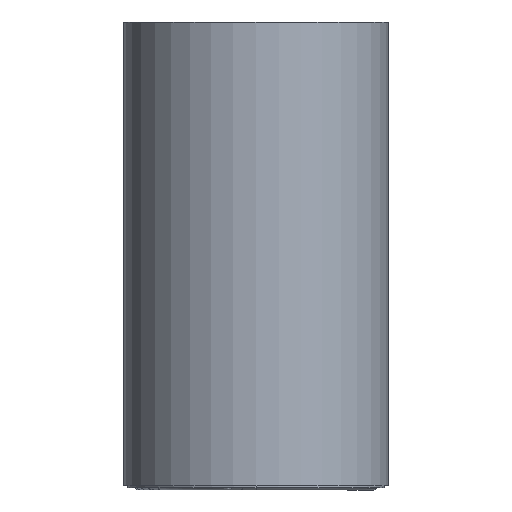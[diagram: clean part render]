
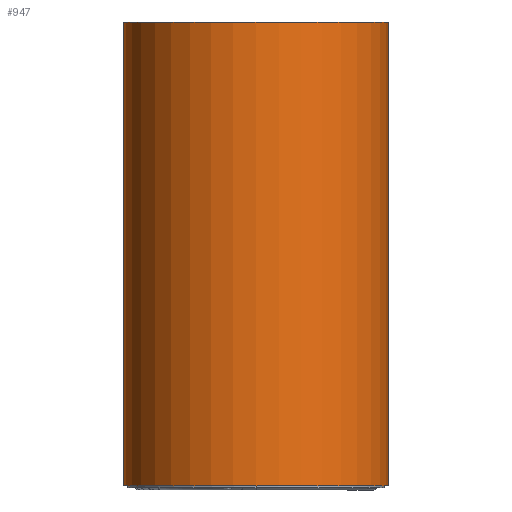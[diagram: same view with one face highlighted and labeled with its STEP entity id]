
A CAD part, front view. The second image highlights one B-rep face of the part: STEP entity #947.
In plain terms, the highlighted cylindrical face has radius 30 mm (diameter 60 mm), a partial arc.
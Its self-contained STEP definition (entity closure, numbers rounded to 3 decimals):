
#51=CYLINDRICAL_SURFACE('',#1052,30.);
#129=FACE_OUTER_BOUND('',#197,.T.);
#197=EDGE_LOOP('',(#752,#753,#754,#755));
#261=CIRCLE('',#1030,30.);
#271=CIRCLE('',#1050,30.);
#336=LINE('',#1645,#392);
#337=LINE('',#1646,#393);
#392=VECTOR('',#1278,304.8);
#393=VECTOR('',#1279,304.8);
#441=VERTEX_POINT('',#1594);
#443=VERTEX_POINT('',#1598);
#452=VERTEX_POINT('',#1637);
#453=VERTEX_POINT('',#1639);
#535=EDGE_CURVE('',#443,#441,#261,.T.);
#555=EDGE_CURVE('',#452,#453,#271,.T.);
#556=EDGE_CURVE('',#441,#452,#336,.T.);
#557=EDGE_CURVE('',#453,#443,#337,.T.);
#752=ORIENTED_EDGE('',*,*,#557,.T.);
#753=ORIENTED_EDGE('',*,*,#535,.T.);
#754=ORIENTED_EDGE('',*,*,#556,.T.);
#755=ORIENTED_EDGE('',*,*,#555,.T.);
#947=ADVANCED_FACE('',(#129),#51,.T.);
#1030=AXIS2_PLACEMENT_3D('',#1603,#1224,#1225);
#1050=AXIS2_PLACEMENT_3D('',#1643,#1274,#1275);
#1052=AXIS2_PLACEMENT_3D('',#1647,#1280,#1281);
#1224=DIRECTION('center_axis',(0.,0.,1.));
#1225=DIRECTION('ref_axis',(0.,-1.,0.));
#1274=DIRECTION('center_axis',(0.,0.,-1.));
#1275=DIRECTION('ref_axis',(0.,-1.,0.));
#1278=DIRECTION('',(0.,0.,1.));
#1279=DIRECTION('',(0.,0.,-1.));
#1280=DIRECTION('center_axis',(0.,0.,-1.));
#1281=DIRECTION('ref_axis',(0.,-1.,0.));
#1594=CARTESIAN_POINT('',(0.,-30.,0.));
#1598=CARTESIAN_POINT('',(0.,30.,0.));
#1603=CARTESIAN_POINT('Origin',(0.,0.,
0.));
#1637=CARTESIAN_POINT('',(0.,-30.,105.));
#1639=CARTESIAN_POINT('',(0.,30.,105.));
#1643=CARTESIAN_POINT('Origin',(0.,0.,
105.));
#1645=CARTESIAN_POINT('',(0.,-30.,0.));
#1646=CARTESIAN_POINT('',(0.,30.,105.));
#1647=CARTESIAN_POINT('Origin',(0.,0.,
1743.292));
